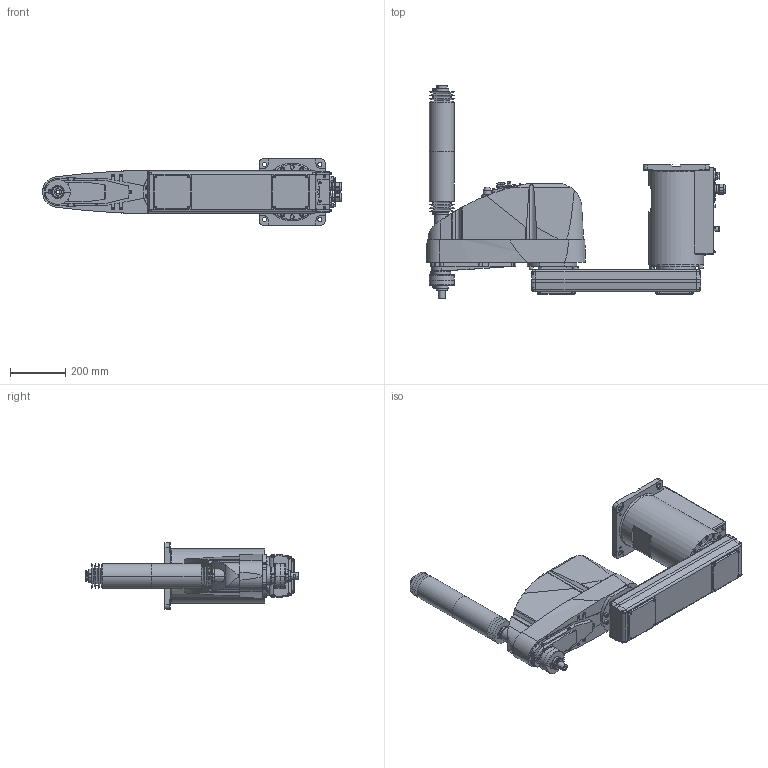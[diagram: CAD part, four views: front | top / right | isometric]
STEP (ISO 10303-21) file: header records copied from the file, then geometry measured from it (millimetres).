
FILE_DESCRIPTION( ( '' ), '1' );
FILE_NAME( '//expscmdclustefs.cadenas.external/client_exchange/iodir/jobs/output/wkb51505456_no0/STEP/G20_854CR_2_03.stp', '2012-11-22T13:25:18', ( '' ), ( '' ), ' ', ' ', ' ' );
FILE_SCHEMA( ( 'CONFIG_CONTROL_DESIGN' ) );
Length unit declared in the file: millimetre
Products named in the file (8): 1; 2; 3; 4; 5; 6; 7; 8
Bounding box: 1084.5 x 774 x 240 mm (x, y, z)
Volume: 43282395.3 mm3; surface area: 1734641 mm2
Topology: 8 solids, 9 shells, 2015 faces, 4893 edges, 3169 vertices
Faces by surface type: plane 1088, cylinder 655, cone 242, torus 29, sphere 1
Entity records: 61280 total; most frequent: CARTESIAN_POINT 12348, DIRECTION 10454, ORIENTED_EDGE 9770, EDGE_CURVE 4885, AXIS2_PLACEMENT_3D 3701, VERTEX_POINT 3169, LINE 3052, VECTOR 3052
